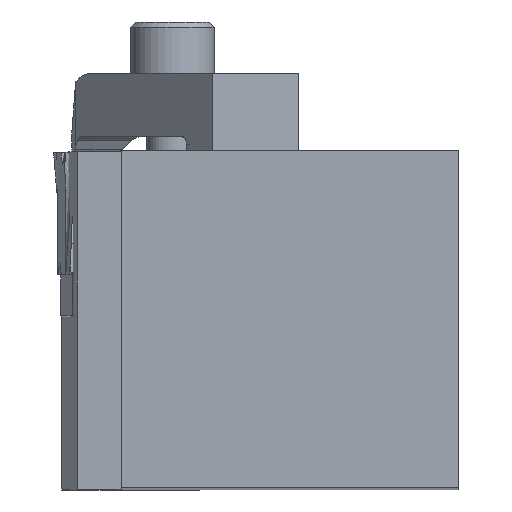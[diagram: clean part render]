
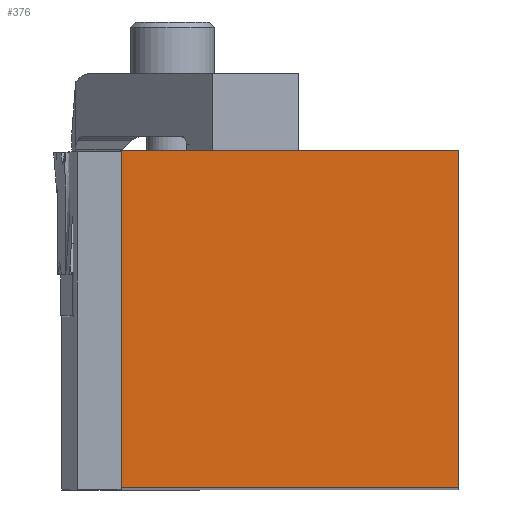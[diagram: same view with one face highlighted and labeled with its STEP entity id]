
A CAD part, top view. The second image highlights one B-rep face of the part: STEP entity #376.
In plain terms, the highlighted planar face has unit normal (0, 0, 1).
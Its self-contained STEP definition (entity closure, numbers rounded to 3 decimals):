
#239=FACE_OUTER_BOUND('',#652,.T.);
#376=ADVANCED_FACE('',(#239),#452,.T.);
#452=PLANE('',#2297);
#652=EDGE_LOOP('',(#1212,#1213,#1214,#1215));
#1212=ORIENTED_EDGE('',*,*,#1699,.T.);
#1213=ORIENTED_EDGE('',*,*,#1697,.T.);
#1214=ORIENTED_EDGE('',*,*,#1690,.T.);
#1215=ORIENTED_EDGE('',*,*,#1693,.F.);
#1410=VERTEX_POINT('',#3822);
#1412=VERTEX_POINT('',#3825);
#1414=VERTEX_POINT('',#3831);
#1416=VERTEX_POINT('',#3838);
#1690=EDGE_CURVE('',#1412,#1410,#1883,.T.);
#1693=EDGE_CURVE('',#1414,#1410,#1886,.T.);
#1697=EDGE_CURVE('',#1416,#1412,#1890,.T.);
#1699=EDGE_CURVE('',#1414,#1416,#1892,.T.);
#1883=LINE('',#3824,#2080);
#1886=LINE('',#3830,#2083);
#1890=LINE('',#3837,#2087);
#1892=LINE('',#3841,#2089);
#2080=VECTOR('',#2821,1.);
#2083=VECTOR('',#2826,1.);
#2087=VECTOR('',#2832,1.);
#2089=VECTOR('',#2836,1.);
#2297=AXIS2_PLACEMENT_3D('',#3844,#2840,#2841);
#2821=DIRECTION('',(-1.,0.,0.));
#2826=DIRECTION('',(0.,1.,0.));
#2832=DIRECTION('',(0.,1.,0.));
#2836=DIRECTION('',(1.,0.,0.));
#2840=DIRECTION('',(0.,0.,1.));
#2841=DIRECTION('',(0.,-1.,0.));
#3822=CARTESIAN_POINT('',(-31.75,31.75,0.));
#3824=CARTESIAN_POINT('',(-18.955,31.75,0.));
#3825=CARTESIAN_POINT('',(0.,31.75,0.));
#3830=CARTESIAN_POINT('',(-31.75,6.541,0.));
#3831=CARTESIAN_POINT('',(-31.75,0.,0.));
#3837=CARTESIAN_POINT('',(0.,6.541,0.));
#3838=CARTESIAN_POINT('',(0.,0.,0.));
#3841=CARTESIAN_POINT('',(-18.955,0.,0.));
#3844=CARTESIAN_POINT('',(-18.955,6.541,0.));
